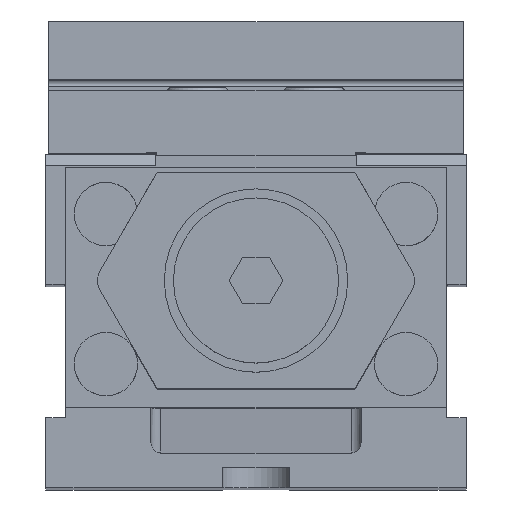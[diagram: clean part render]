
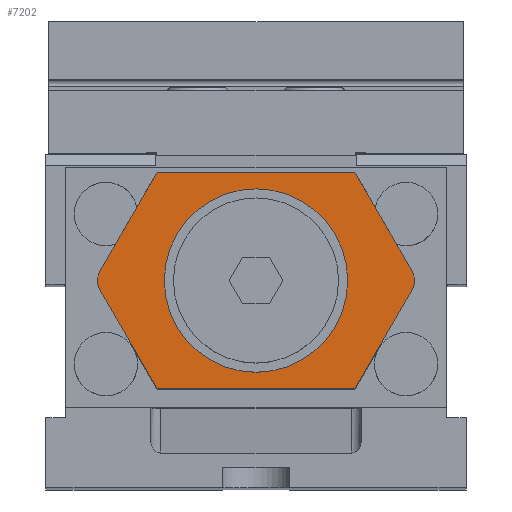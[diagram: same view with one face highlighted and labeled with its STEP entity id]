
A CAD part, top view. The second image highlights one B-rep face of the part: STEP entity #7202.
In plain terms, the highlighted planar face has unit normal (0, 0, 1).
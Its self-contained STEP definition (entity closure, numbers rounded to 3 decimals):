
#2751=CARTESIAN_POINT('',(63.,62.,57.));
#2752=DIRECTION('',(0.,0.,-1.));
#2753=DIRECTION('',(1.,0.,0.));
#2754=AXIS2_PLACEMENT_3D('',#2751,#2752,#2753);
#2756=CARTESIAN_POINT('',(63.,62.,57.));
#2757=DIRECTION('',(0.,0.,-1.));
#2758=DIRECTION('',(-1.,0.,0.));
#2759=AXIS2_PLACEMENT_3D('',#2756,#2757,#2758);
#2761=DIRECTION('',(0.5,0.866,0.));
#2762=VECTOR('',#2761,34.064);
#2763=CARTESIAN_POINT('',(92.664,29.5,57.));
#2764=LINE('',#2763,#2762);
#2765=DIRECTION('',(1.,0.,0.));
#2766=VECTOR('',#2765,59.329);
#2767=CARTESIAN_POINT('',(33.336,29.5,57.));
#2768=LINE('',#2767,#2766);
#2769=DIRECTION('',(0.5,-0.866,0.));
#2770=VECTOR('',#2769,34.064);
#2771=CARTESIAN_POINT('',(16.304,59.,57.));
#2772=LINE('',#2771,#2770);
#2773=CARTESIAN_POINT('',(21.5,62.,57.));
#2774=DIRECTION('',(0.,0.,1.));
#2775=DIRECTION('',(-1.,0.,0.));
#2776=AXIS2_PLACEMENT_3D('',#2773,#2774,#2775);
#2778=CARTESIAN_POINT('',(21.5,62.,57.));
#2779=DIRECTION('',(0.,0.,1.));
#2780=DIRECTION('',(-0.866,0.5,0.));
#2781=AXIS2_PLACEMENT_3D('',#2778,#2779,#2780);
#2783=DIRECTION('',(-0.5,-0.866,0.));
#2784=VECTOR('',#2783,34.064);
#2785=CARTESIAN_POINT('',(33.336,94.5,57.));
#2786=LINE('',#2785,#2784);
#2787=DIRECTION('',(-1.,0.,0.));
#2788=VECTOR('',#2787,59.329);
#2789=CARTESIAN_POINT('',(92.664,94.5,57.));
#2790=LINE('',#2789,#2788);
#2791=DIRECTION('',(-0.5,0.866,0.));
#2792=VECTOR('',#2791,34.064);
#2793=CARTESIAN_POINT('',(109.696,65.,57.));
#2794=LINE('',#2793,#2792);
#2795=CARTESIAN_POINT('',(104.5,62.,57.));
#2796=DIRECTION('',(0.,0.,1.));
#2797=DIRECTION('',(1.,0.,0.));
#2798=AXIS2_PLACEMENT_3D('',#2795,#2796,#2797);
#2800=CARTESIAN_POINT('',(104.5,62.,57.));
#2801=DIRECTION('',(0.,0.,1.));
#2802=DIRECTION('',(0.866,-0.5,0.));
#2803=AXIS2_PLACEMENT_3D('',#2800,#2801,#2802);
#4020=CARTESIAN_POINT('',(33.336,29.5,57.));
#4021=VERTEX_POINT('',#4020);
#4022=CARTESIAN_POINT('',(92.664,29.5,57.));
#4023=VERTEX_POINT('',#4022);
#4024=CARTESIAN_POINT('',(16.304,59.,57.));
#4025=VERTEX_POINT('',#4024);
#4026=CARTESIAN_POINT('',(16.304,65.,57.));
#4027=VERTEX_POINT('',#4026);
#4028=CARTESIAN_POINT('',(15.5,62.,57.));
#4029=VERTEX_POINT('',#4028);
#4030=CARTESIAN_POINT('',(33.336,94.5,57.));
#4031=VERTEX_POINT('',#4030);
#4036=CARTESIAN_POINT('',(92.664,94.5,57.));
#4037=VERTEX_POINT('',#4036);
#4038=CARTESIAN_POINT('',(109.696,65.,57.));
#4039=VERTEX_POINT('',#4038);
#4044=CARTESIAN_POINT('',(109.696,59.,57.));
#4045=VERTEX_POINT('',#4044);
#4046=CARTESIAN_POINT('',(110.5,62.,57.));
#4047=VERTEX_POINT('',#4046);
#4048=CARTESIAN_POINT('',(35.5,62.,57.));
#4049=CARTESIAN_POINT('',(90.5,62.,57.));
#4050=VERTEX_POINT('',#4048);
#4051=VERTEX_POINT('',#4049);
#7175=CARTESIAN_POINT('',(63.,60.,57.));
#7176=DIRECTION('',(0.,0.,1.));
#7177=DIRECTION('',(1.,0.,0.));
#7178=AXIS2_PLACEMENT_3D('',#7175,#7176,#7177);
#7179=PLANE('',#7178);
#7180=ORIENTED_EDGE('',*,*,#7104,.F.);
#7181=ORIENTED_EDGE('',*,*,#7090,.F.);
#7182=ORIENTED_EDGE('',*,*,#7076,.F.);
#7184=ORIENTED_EDGE('',*,*,#7183,.F.);
#7186=ORIENTED_EDGE('',*,*,#7185,.F.);
#7188=ORIENTED_EDGE('',*,*,#7187,.F.);
#7190=ORIENTED_EDGE('',*,*,#7189,.F.);
#7191=ORIENTED_EDGE('',*,*,#7135,.F.);
#7192=ORIENTED_EDGE('',*,*,#7121,.F.);
#7193=ORIENTED_EDGE('',*,*,#7119,.F.);
#7194=EDGE_LOOP('',(#7180,#7181,#7182,#7184,#7186,#7188,#7190,#7191,#7192,
#7193));
#7195=FACE_OUTER_BOUND('',#7194,.F.);
#7197=ORIENTED_EDGE('',*,*,#7196,.F.);
#7199=ORIENTED_EDGE('',*,*,#7198,.F.);
#7200=EDGE_LOOP('',(#7197,#7199));
#7201=FACE_BOUND('',#7200,.F.);
#7202=ADVANCED_FACE('',(#7195,#7201),#7179,.T.);
#2755=CIRCLE('',#2754,27.5);
#2760=CIRCLE('',#2759,27.5);
#2777=CIRCLE('',#2776,6.);
#2782=CIRCLE('',#2781,6.);
#2799=CIRCLE('',#2798,6.);
#2804=CIRCLE('',#2803,6.);
#7076=EDGE_CURVE('',#4025,#4021,#2772,.T.);
#7090=EDGE_CURVE('',#4021,#4023,#2768,.T.);
#7104=EDGE_CURVE('',#4023,#4045,#2764,.T.);
#7119=EDGE_CURVE('',#4045,#4047,#2804,.T.);
#7121=EDGE_CURVE('',#4047,#4039,#2799,.T.);
#7135=EDGE_CURVE('',#4039,#4037,#2794,.T.);
#7183=EDGE_CURVE('',#4029,#4025,#2777,.T.);
#7185=EDGE_CURVE('',#4027,#4029,#2782,.T.);
#7187=EDGE_CURVE('',#4031,#4027,#2786,.T.);
#7189=EDGE_CURVE('',#4037,#4031,#2790,.T.);
#7196=EDGE_CURVE('',#4051,#4050,#2755,.T.);
#7198=EDGE_CURVE('',#4050,#4051,#2760,.T.);
